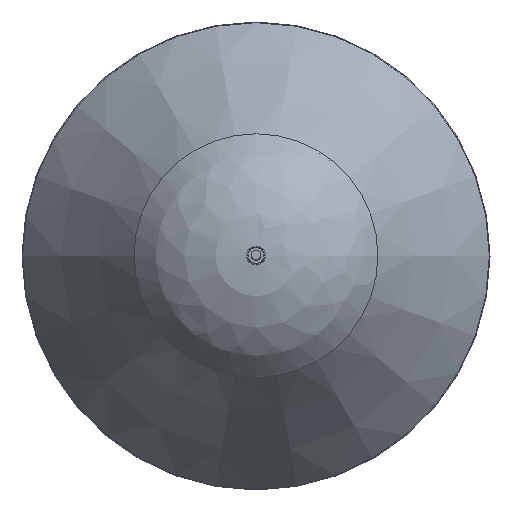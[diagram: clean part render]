
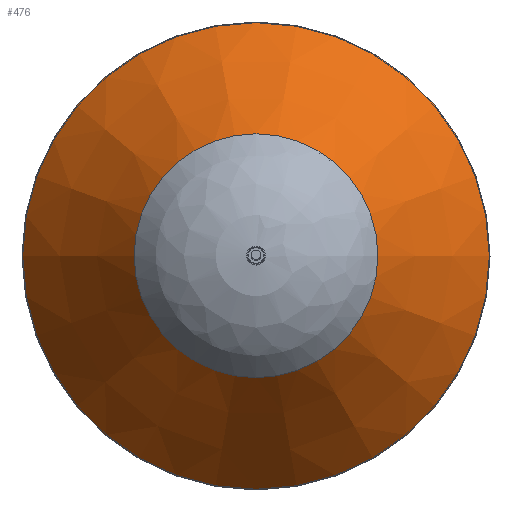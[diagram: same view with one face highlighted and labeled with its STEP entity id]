
A CAD part, top view. The second image highlights one B-rep face of the part: STEP entity #476.
In plain terms, the highlighted conical face has half-angle 35.096 degrees and reference radius 113.951 mm.
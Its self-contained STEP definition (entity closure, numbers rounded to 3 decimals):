
#30=CONICAL_SURFACE('',#546,113.951,0.613);
#69=FACE_OUTER_BOUND('',#109,.T.);
#109=EDGE_LOOP('',(#353,#354,#355,#356));
#151=LINE('',#844,#163);
#163=VECTOR('',#658,113.951);
#183=CIRCLE('',#545,149.447);
#184=CIRCLE('',#547,77.902);
#234=VERTEX_POINT('',#839);
#235=VERTEX_POINT('',#843);
#279=EDGE_CURVE('',#234,#234,#183,.T.);
#280=EDGE_CURVE('',#234,#235,#151,.T.);
#281=EDGE_CURVE('',#235,#235,#184,.T.);
#353=ORIENTED_EDGE('',*,*,#279,.F.);
#354=ORIENTED_EDGE('',*,*,#280,.T.);
#355=ORIENTED_EDGE('',*,*,#281,.T.);
#356=ORIENTED_EDGE('',*,*,#280,.F.);
#476=ADVANCED_FACE('',(#69),#30,.T.);
#545=AXIS2_PLACEMENT_3D('',#841,#654,#655);
#546=AXIS2_PLACEMENT_3D('',#842,#656,#657);
#547=AXIS2_PLACEMENT_3D('',#845,#659,#660);
#654=DIRECTION('center_axis',(0.,0.,-1.));
#655=DIRECTION('ref_axis',(1.,0.,0.));
#656=DIRECTION('center_axis',(0.,0.,-1.));
#657=DIRECTION('ref_axis',(-1.,0.,0.));
#658=DIRECTION('',(-0.575,0.,0.818));
#659=DIRECTION('center_axis',(0.,0.,-1.));
#660=DIRECTION('ref_axis',(1.,0.,0.));
#839=CARTESIAN_POINT('',(149.447,0.,0.787));
#841=CARTESIAN_POINT('Origin',(0.,0.,0.787));
#842=CARTESIAN_POINT('Origin',(0.,0.,51.3));
#843=CARTESIAN_POINT('',(77.902,0.,102.6));
#844=CARTESIAN_POINT('',(113.951,0.,51.3));
#845=CARTESIAN_POINT('Origin',(0.,0.,102.6));
